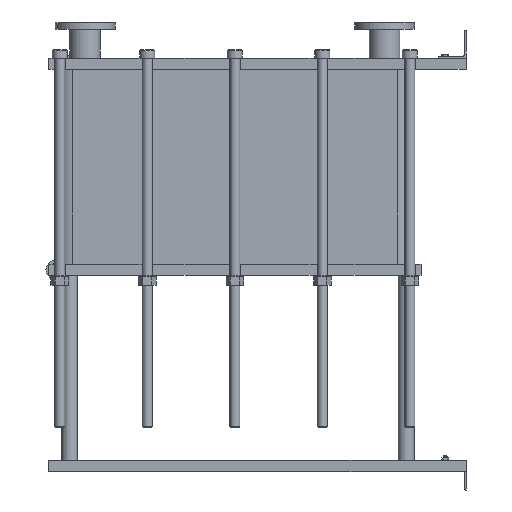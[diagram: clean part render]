
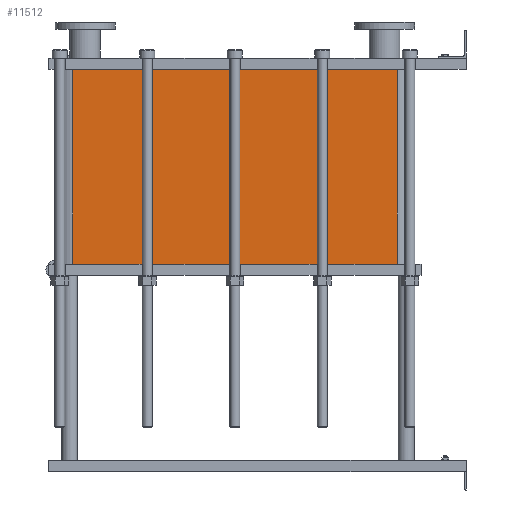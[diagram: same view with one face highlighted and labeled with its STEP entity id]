
A CAD part, left-side view. The second image highlights one B-rep face of the part: STEP entity #11512.
In plain terms, the highlighted planar face has unit normal (-1, 0, 0).
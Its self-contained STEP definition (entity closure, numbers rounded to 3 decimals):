
#1129=LINE('',#23232,#2102);
#1130=LINE('',#23236,#2103);
#1131=LINE('',#23238,#2104);
#1132=LINE('',#23239,#2105);
#2102=VECTOR('',#15887,10.);
#2103=VECTOR('',#15892,10.);
#2104=VECTOR('',#15893,10.);
#2105=VECTOR('',#15894,10.);
#3267=FACE_OUTER_BOUND('',#4093,.T.);
#4093=EDGE_LOOP('',(#10103,#10104,#10105,#10106));
#5642=VERTEX_POINT('',#23229);
#5643=VERTEX_POINT('',#23231);
#5644=VERTEX_POINT('',#23235);
#5645=VERTEX_POINT('',#23237);
#7159=EDGE_CURVE('',#5643,#5642,#1129,.T.);
#7161=EDGE_CURVE('',#5642,#5644,#1130,.T.);
#7162=EDGE_CURVE('',#5645,#5644,#1131,.T.);
#7163=EDGE_CURVE('',#5645,#5643,#1132,.T.);
#10103=ORIENTED_EDGE('',*,*,#7161,.T.);
#10104=ORIENTED_EDGE('',*,*,#7162,.F.);
#10105=ORIENTED_EDGE('',*,*,#7163,.T.);
#10106=ORIENTED_EDGE('',*,*,#7159,.T.);
#10857=PLANE('',#12751);
#11512=ADVANCED_FACE('',(#3267),#10857,.T.);
#12751=AXIS2_PLACEMENT_3D('',#23234,#15890,#15891);
#15887=DIRECTION('',(0.,0.,-1.));
#15890=DIRECTION('center_axis',(-1.,0.,0.));
#15891=DIRECTION('ref_axis',(0.,1.,0.));
#15892=DIRECTION('',(0.,-1.,0.));
#15893=DIRECTION('',(0.,0.,-1.));
#15894=DIRECTION('',(0.,1.,0.));
#23229=CARTESIAN_POINT('',(-200.,1414.,-700.35));
#23231=CARTESIAN_POINT('',(-200.,1414.,0.));
#23232=CARTESIAN_POINT('',(-200.,1414.,0.));
#23234=CARTESIAN_POINT('Origin',(-200.,248.,0.));
#23235=CARTESIAN_POINT('',(-200.,248.,-700.35));
#23236=CARTESIAN_POINT('',(-200.,539.5,-700.35));
#23237=CARTESIAN_POINT('',(-200.,248.,0.));
#23238=CARTESIAN_POINT('',(-200.,248.,0.));
#23239=CARTESIAN_POINT('',(-200.,248.,0.));
